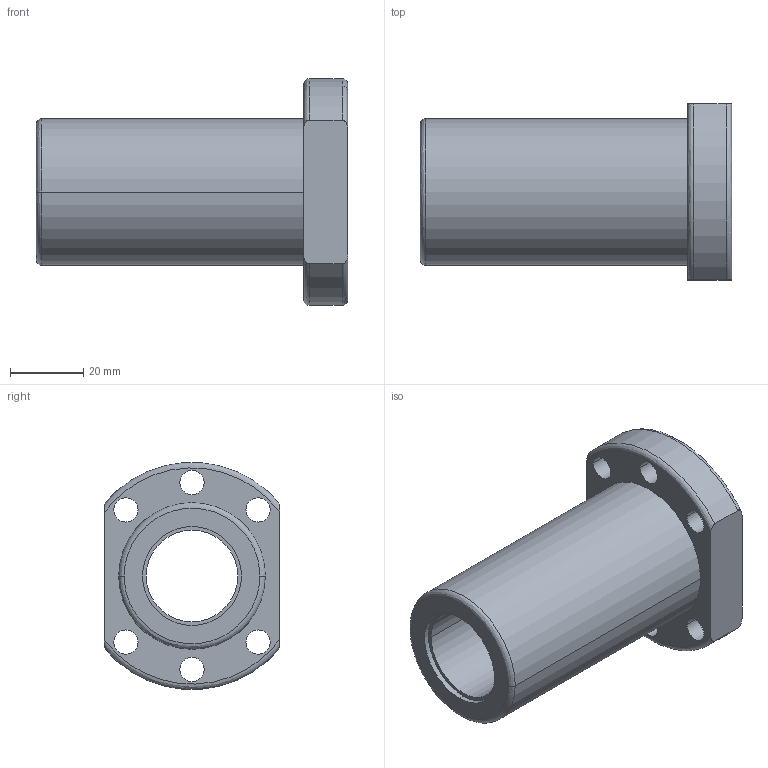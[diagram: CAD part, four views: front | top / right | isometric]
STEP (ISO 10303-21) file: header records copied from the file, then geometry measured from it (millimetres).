
FILE_DESCRIPTION (( 'STEP AP214' ), '1' );
FILE_NAME ('2.3017 Kuularuuvimutteri SFU2510-4.STEP', '2024-05-03T05:40:51', ( '' ), ( '' ), 'SwSTEP 2.0', 'SolidWorks 2024', '' );
FILE_SCHEMA (( 'AUTOMOTIVE_DESIGN' ));
Length unit declared in the file: millimetre
Products named in the file (1): 2.3017 Kuularuuvimutteri SFU2510-4
Bounding box: 85 x 48 x 61.8 mm (x, y, z)
Volume: 77996 mm3; surface area: 25161.4 mm2
Topology: 2 solids, 2 shells, 44 faces, 106 edges, 70 vertices
Faces by surface type: cylinder 28, plane 10, bspline 6
Entity records: 1952 total; most frequent: CARTESIAN_POINT 787, DIRECTION 228, ORIENTED_EDGE 212, EDGE_CURVE 106, AXIS2_PLACEMENT_3D 97, VERTEX_POINT 70, EDGE_LOOP 64, CIRCLE 58
